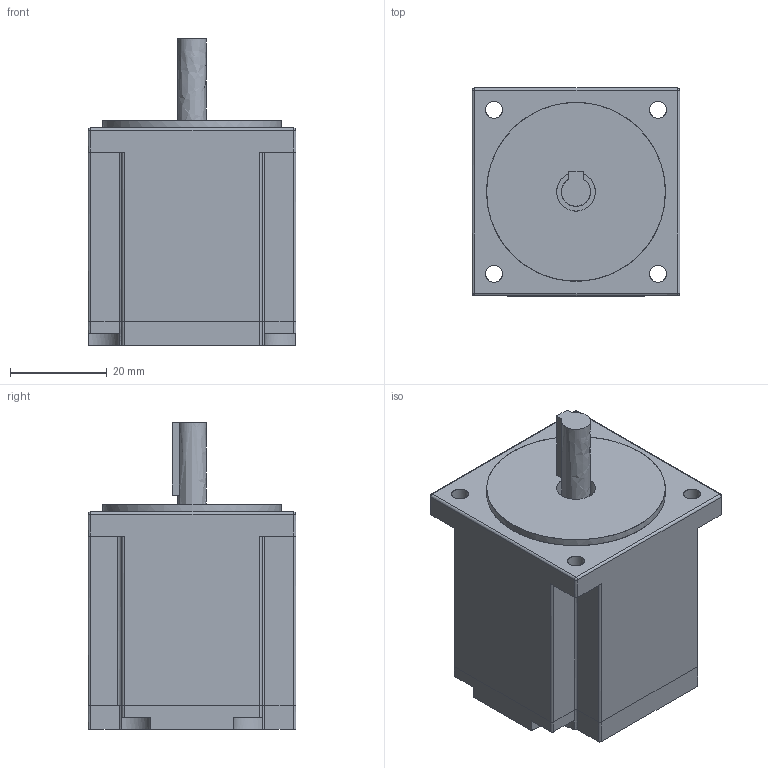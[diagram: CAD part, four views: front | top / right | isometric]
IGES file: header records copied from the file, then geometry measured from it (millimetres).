
Start section: C
Global section: file name: BL42S.igs; native system: By Siemens PLM Incorporated; preprocessor: XPlus GENERIC/IGES 17.0.49; author: Author; organization: Title; date: 20170219.125310; units: millimetre
Bounding box: 43 x 43 x 63.5 mm (x, y, z)
Surface area: 16262.4 mm2 (no closed solid volume)
Topology: 0 solids, 0 shells, 244 faces, 1556 edges, 1552 vertices
Faces by surface type: bspline 244
